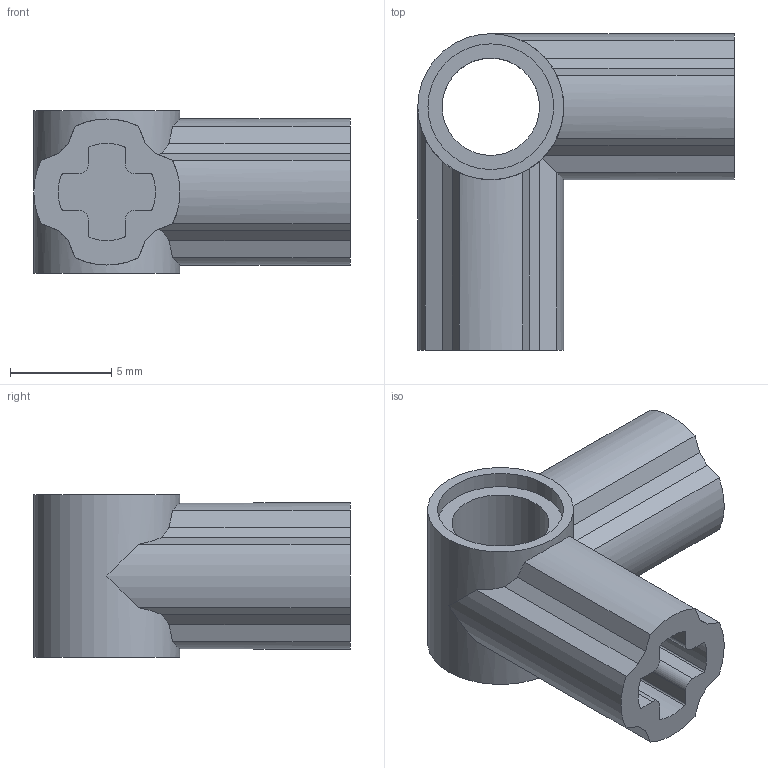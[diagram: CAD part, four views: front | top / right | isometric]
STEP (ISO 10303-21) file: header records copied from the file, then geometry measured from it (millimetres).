
FILE_DESCRIPTION(/* description */ ('Unknown'),/* implementation_level */ '2;1');
FILE_NAME(/* name */ 'Black_4107767_JCA',/* time_stamp */ '2025-07-21T23:43:46+02:00',/* author */ ('Unknown'),/* organization */ ('Unknown'),/* preprocessor_version */ 'ST-DEVELOPER v19.4',/* originating_system */ 'Solid Edge',/* authorisation */ 'Unknown');
FILE_SCHEMA (('AUTOMOTIVE_DESIGN {1 0 10303 214 3 1 1}'));
Length unit declared in the file: millimetre
Products named in the file (1): Black_4107767_JCA
Bounding box: 15.6 x 15.6 x 8 mm (x, y, z)
Volume: 596.1 mm3; surface area: 1041.9 mm2
Topology: 1 solids, 1 shells, 92 faces, 258 edges, 172 vertices
Faces by surface type: plane 48, cylinder 44
Full cylindrical faces by diameter (mm): 4.8 x1, 6.2 x2, 7.2 x1
Entity records: 3006 total; most frequent: DIRECTION 550, CARTESIAN_POINT 514, ORIENTED_EDGE 502, EDGE_CURVE 251, AXIS2_PLACEMENT_3D 206, VERTEX_POINT 170, LINE 138, VECTOR 138
